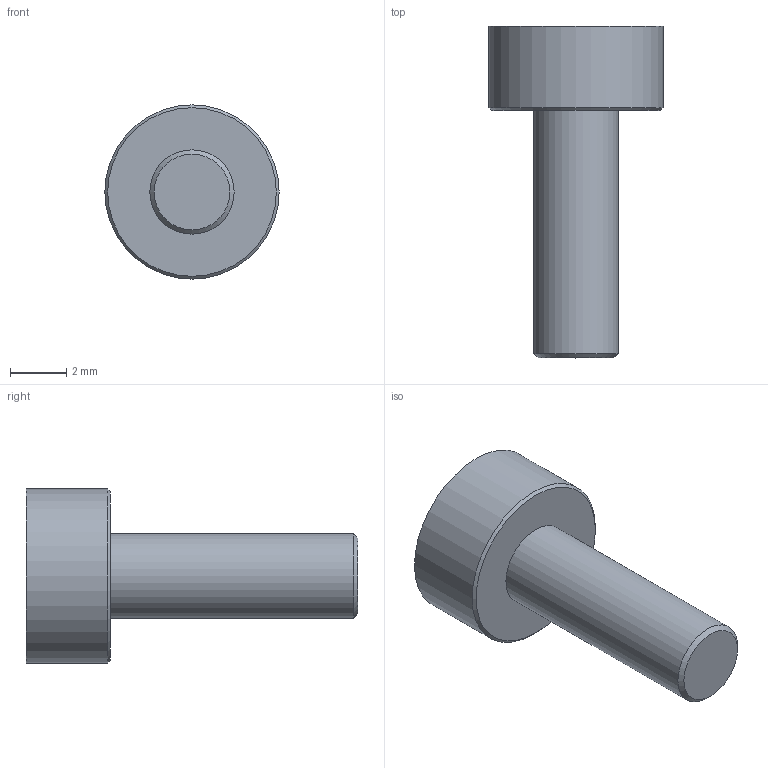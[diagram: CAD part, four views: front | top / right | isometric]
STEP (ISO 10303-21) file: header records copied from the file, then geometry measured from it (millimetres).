
FILE_DESCRIPTION (( 'STEP AP214' ), '1' );
FILE_NAME ('SK-12.STEP', '2018-10-09T18:04:08', ( '' ), ( '' ), 'SwSTEP 2.0', 'SolidWorks 2017', '' );
FILE_SCHEMA (( 'AUTOMOTIVE_DESIGN' ));
Length unit declared in the file: millimetre
Products named in the file (1): SK-12
Bounding box: 6.2 x 11.8 x 6.2 mm (x, y, z)
Volume: 150.5 mm3; surface area: 206.1 mm2
Topology: 1 solids, 1 shells, 20 faces, 48 edges, 32 vertices
Faces by surface type: plane 11, cylinder 7, cone 2
Full cylindrical faces by diameter (mm): 3 x1, 6.2 x1
Entity records: 574 total; most frequent: CARTESIAN_POINT 123, ORIENTED_EDGE 84, DIRECTION 80, EDGE_CURVE 42, VERTEX_POINT 30, AXIS2_PLACEMENT_3D 27, EDGE_LOOP 26, LINE 26
